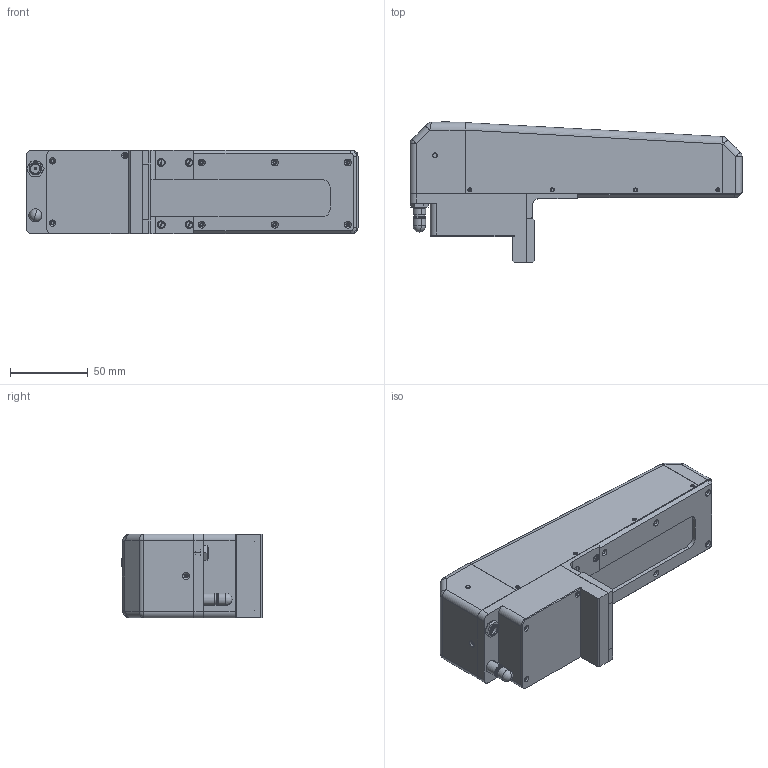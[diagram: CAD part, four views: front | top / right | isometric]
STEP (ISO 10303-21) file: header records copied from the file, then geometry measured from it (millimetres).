
FILE_DESCRIPTION (( 'STEP AP203' ), '1' );
FILE_NAME ('Ñåðèÿ ÈÊÏ super short.STEP', '2020-09-25T07:52:44', ( 'user' ), ( 'Ref' ), 'SwSTEP 2.0', 'SolidWorks 2015', '' );
FILE_SCHEMA (( 'CONFIG_CONTROL_DESIGN' ));
Length unit declared in the file: millimetre
Products named in the file (27): Ãàéêà àíòåííû; 俶.505.10.063 栱殣鍒鍱; Ãàéêà ðàçúåìà123; ﾀ炅褊浯 韈 ﾋ頸糺; 俶.505.70.020 栺樏鋋; Óãîëîê äëÿ óêîðî÷åííîãî ïðàâûé; 嵑濏摳; 俶 505.70.004; Âèíò_Ì2õ6; Êîðïóñ ïðîô óêîðî÷åííûé BLconsult; Êðûøêà äâèãàòåëÿ; 俶 505.70.019; Âèíò_Ì2õ8 ïîòàé; Ïëàíêà ìàãíèòíàÿ äëÿ óêîðî÷åííîãî; 栱殣鍒鍱; 俶 505.60.018; Âèíò_Ì3x8 â ïîòàé; Ïëàñòèíà çàäíÿÿ ìàãíèòíàÿ äëÿ óêîðî÷åííîãî; Ñåðèÿ ÈÊÏ super short; 俶 505.70 鍛樇魡; Âèíò_Ì3x10 â ïîòàé; ﾐﾔ.505.70.012 ﾎ魵瑙韃; Âèíò_Ì3x6 â ïîòàé; 鱼铍铌 镳噔 箨铕铟屙眍泐2; Ïëàíêà ëåâàÿ óêîðî÷åííîãî; 俶.505.10.062 扱闀罻; Ðàçúåì ïèòàíèÿ DJK-04A
Assembly tree (35 placements, depth 2):
  Ñåðèÿ ÈÊÏ super short
    Óãîëîê äëÿ óêîðî÷åííîãî ïðàâûé
    Êîðïóñ ïðîô óêîðî÷åííûé BLconsult
    Ïëàíêà ìàãíèòíàÿ äëÿ óêîðî÷åííîãî
    Ïëàñòèíà çàäíÿÿ ìàãíèòíàÿ äëÿ óêîðî÷åííîãî
    俶.505.10.062 扱闀罻
    俶.505.10.063 栱殣鍒鍱  x2
    俶.505.70.020 栺樏鋋
    Âèíò_Ì2õ6  x4
    Âèíò_Ì2õ8 ïîòàé
    Âèíò_Ì3x8 â ïîòàé
    Âèíò_Ì3x10 â ïîòàé  x2
    Âèíò_Ì3x6 â ïîòàé  x4
    Ïëàíêà ëåâàÿ óêîðî÷åííîãî  x2
    Ãàéêà àíòåííû
    ﾀ炅褊浯 韈 ﾋ頸糺
    俶 505.70.004
    俶 505.70.019
    俶 505.60.018
    俶 505.70 鍛樇魡
    ﾐﾔ.505.70.012 ﾎ魵瑙韃
    鱼铍铌 镳噔 箨铕铟屙眍泐2
    Ðàçúåì ïèòàíèÿ DJK-04A
    Ãàéêà ðàçúåìà123
    嵑濏摳
    Êðûøêà äâèãàòåëÿ
    栱殣鍒鍱
Bounding box: 213.5 x 90.5 x 54 mm (x, y, z)
Volume: 150606.2 mm3; surface area: 148635.8 mm2
Topology: 36 solids, 36 shells, 1024 faces, 2614 edges, 1648 vertices
Faces by surface type: plane 420, cylinder 403, cone 171, torus 18, bspline 8, sphere 4
Entity records: 30926 total; most frequent: CARTESIAN_POINT 5171, DIRECTION 4945, ORIENTED_EDGE 4564, EDGE_CURVE 2282, AXIS2_PLACEMENT_3D 1809, VERTEX_POINT 1465, VECTOR 1327, LINE 1327
